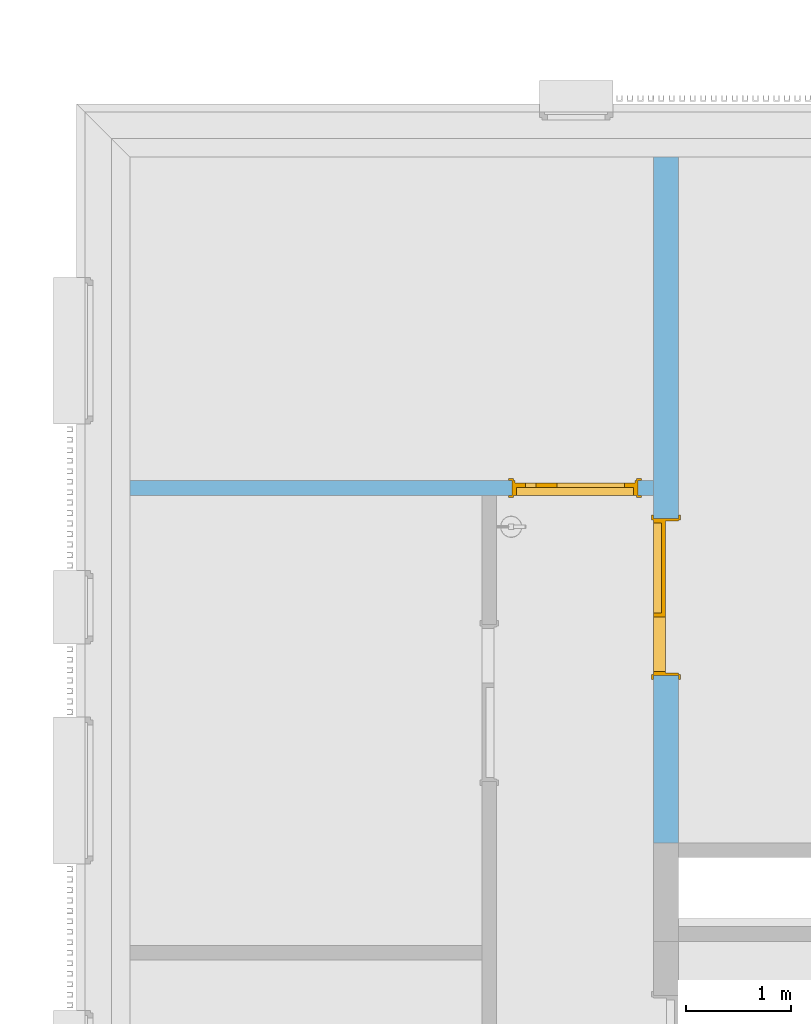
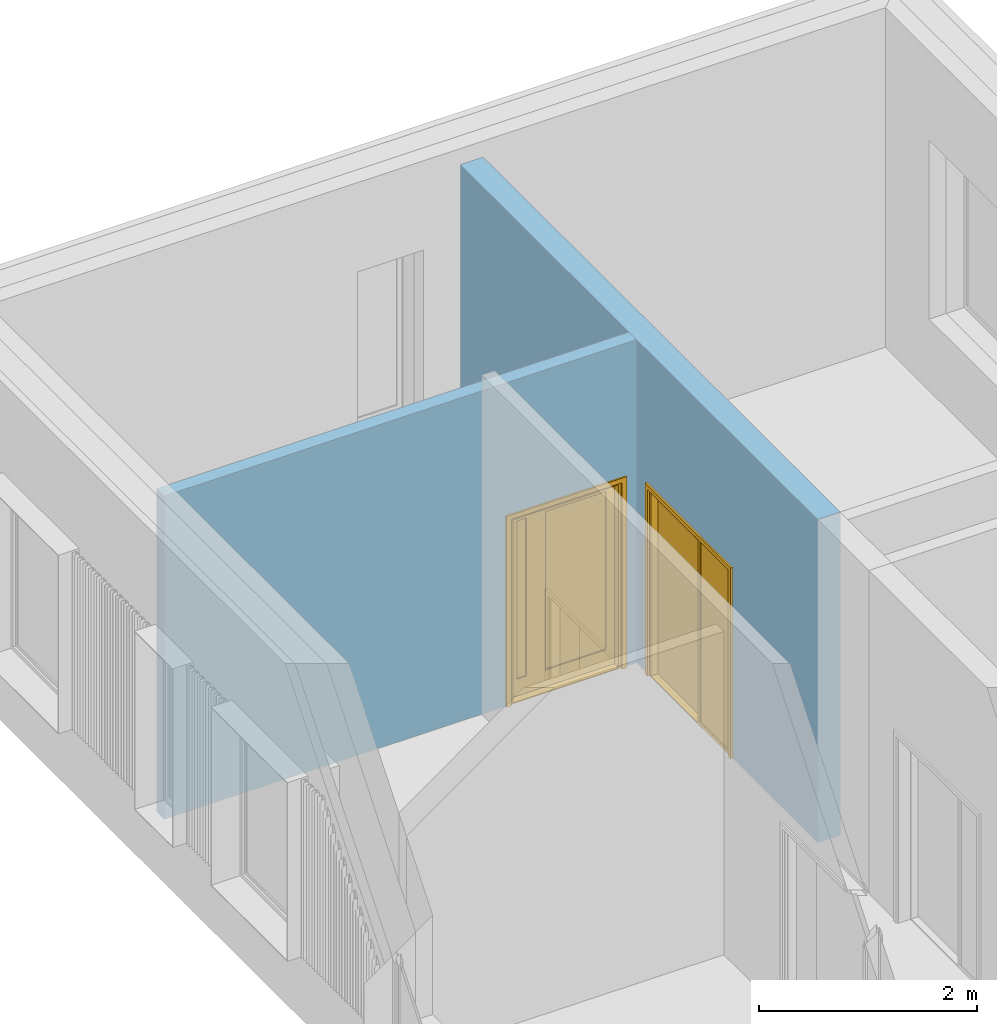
# One storey, part 58 of 100: 2 doors, 2 openings, plus 2 elements that do not belong to this part.
"""IFC2X3 building model written with IfcOpenShell, lengths in millimetres."""

from ifc_helpers import new_model, entity, si_unit, converted_unit, derived_unit, money_unit, direction, frame, origin_with_axes, origin_2d_with_axis, place, context, subcontext, project, spatial, polyline, rectangle, outline, extrude, open_shell, faceted_brep, surface_model, material, layer, layer_set, layer_usage, type_object, element, fill, save


model = new_model("IFC2X3")

# Units and contexts
model_context = context("Model", 3, precision=0.01, world=origin_with_axes(), true_north=direction((0.0, 1.0)))
body_context = subcontext(model_context, "Body", "Model", "MODEL_VIEW")
ifc_project = project(units=[si_unit("LENGTHUNIT", "METRE", prefix="MILLI"), si_unit("AREAUNIT", "SQUARE_METRE"), si_unit("VOLUMEUNIT", "CUBIC_METRE"), converted_unit("PLANEANGLEUNIT", "DEGREE", entity("IfcPlaneAngleMeasure", 0.0174532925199), si_unit("PLANEANGLEUNIT", "RADIAN"), dimensions=[0, 0, 0, 0, 0, 0, 0]), si_unit("SOLIDANGLEUNIT", "STERADIAN"), money_unit("EUR"), converted_unit("TIMEUNIT", "Year", entity("IfcTimeMeasure", 31556926.0), si_unit("TIMEUNIT", "SECOND"), dimensions=[0, 0, 1, 0, 0, 0, 0]), si_unit("MASSUNIT", "GRAM", prefix="KILO"), si_unit("THERMODYNAMICTEMPERATUREUNIT", "DEGREE_CELSIUS"), si_unit("LUMINOUSINTENSITYUNIT", "LUMEN"), si_unit("ENERGYUNIT", "JOULE", prefix="MEGA"), derived_unit("THERMALCONDUCTANCEUNIT", [(si_unit("POWERUNIT", "WATT"), 1), (si_unit("LENGTHUNIT", "METRE"), -1), (si_unit("THERMODYNAMICTEMPERATUREUNIT", "KELVIN"), -1)]), derived_unit("SPECIFICHEATCAPACITYUNIT", [(si_unit("ENERGYUNIT", "JOULE"), 1), (si_unit("MASSUNIT", "GRAM", prefix="KILO"), -1), (si_unit("THERMODYNAMICTEMPERATUREUNIT", "KELVIN"), -1)]), derived_unit("MASSDENSITYUNIT", [(si_unit("MASSUNIT", "GRAM", prefix="KILO"), 1), (si_unit("VOLUMEUNIT", "CUBIC_METRE"), -1)])], contexts=[model_context])

# Site, building, storey
site_placement = place(None, origin_with_axes())
site = spatial("IfcSite", under=ifc_project, at=site_placement, Name="Politse- ja Piirivalveameti ning Päästeameti ühishoone", CompositionType="ELEMENT")
building_placement = place(site_placement, origin_with_axes())
building = spatial("IfcBuilding", under=site, at=building_placement, Name="Politse- ja Piirivalveameti ning Päästeameti ühishoone", CompositionType="ELEMENT")
storey_placement = place(building_placement, frame((0.0, 0.0, 3800.0), z_axis=(0.0, 0.0, 1.0), x_axis=(1.0, 0.0, 0.0)))
storey = spatial("IfcBuildingStorey", under=building, at=storey_placement, Name="Teine korrus", CompositionType="ELEMENT", Elevation=3800.0)

# Wall, opening, door
ifc_material = material(Name="KON-05_Betoon Plokk - Konstuktsioon")
ifc_layer_1 = layer(ifc_material, 240.0, ventilated="UNKNOWN")
ifc_layer_set_1 = layer_set([ifc_layer_1], Name="SS-04_Sisesein 240")
ifc_layer_usage_1 = layer_usage(ifc_layer_set_1, "AXIS2", "POSITIVE", 0.0)
wall_type_1 = type_object("IfcWallType", Name="SS-04_Sisesein 240 240", PredefinedType="NOTDEFINED")
wall_1_placement = place(storey_placement, frame((65160.5595507, 37499.9521318, 0.0), z_axis=(0.0, 0.0, 1.0), x_axis=(0.0, -1.0, 0.0)))
wall_1 = element("IfcWallStandardCase", 1, at=wall_1_placement, inside=storey, type_object=wall_type_1, material=ifc_layer_usage_1, Name="SS-04", context=body_context, shape_type="SweptSolid", body=[
    extrude(outline(polyline([(0.0, 0.0), (6550.14299276, 0.0), (6550.14299276, 240.0), (0.0, 240.0), (0.0, 0.0)])), origin_with_axes(), (0.0, 0.0, 1.0), 3620.0),
])
opening_1_placement = place(wall_1_placement, frame((4203.02359896, 0.0, 0.0), z_axis=(0.0, 0.0, 1.0), x_axis=(1.0, 0.0, 0.0)))
opening_1 = element("IfcOpeningElement", 2, at=opening_1_placement, cuts=wall_1, Name="SU-02-5", context=body_context, shape_type="SweptSolid", body=[
    extrude(rectangle(XDim=1500.0, YDim=2100.0, at=origin_2d_with_axis()), frame((0.0, 240.0, 1050.0), z_axis=(0.0, 1.0, 0.0), x_axis=(-1.0, 0.0, 0.0)), (0.0, 0.0, -1.0), 720.0),
    extrude(rectangle(XDim=1574.0, YDim=2137.0, at=origin_2d_with_axis()), frame((0.0, 240.0, 1068.5), z_axis=(0.0, 1.0, 0.0), x_axis=(-1.0, 0.0, 0.0)), (0.0, 0.0, 1.0), 240.0),
    extrude(rectangle(XDim=1574.0, YDim=2137.0, at=origin_2d_with_axis()), frame((0.0, 0.0, 1068.5), z_axis=(0.0, -1.0, 0.0), x_axis=(-1.0, 0.0, 0.0)), (0.0, 0.0, 1.0), 240.0),
])
door_style_1 = type_object("IfcDoorStyle", Name="Door with Sidelight on Side 2 23", ConstructionType="NOTDEFINED", OperationType="NOTDEFINED", ParameterTakesPrecedence=False, Sizeable=False)
door_1_placement = place(opening_1_placement, frame((-750.0, 0.0, 0.0), z_axis=(0.0, 0.0, 1.0), x_axis=(1.0, 0.0, 0.0)))
door_1 = element("IfcDoor", 3, at=door_1_placement, inside=storey, type_object=door_style_1, Name="SU-02-5", ObjectType="DOOR", OverallHeight=2100.0, OverallWidth=1500.0, context=body_context, shape_type="SurfaceModel", body=[
    faceted_brep([(40.0, 0.0, 0.0), (40.0, 0.0, 12.0), (40.0, 75.0, 12.0), (40.0, 75.0, 0.0), (900.0, 0.0, 0.0), (900.0, 0.0, 12.0), (900.0, 75.0, 12.0), (912.0, 75.0, 12.0), (28.0, 75.0, 12.0), (28.0, 75.0, 0.0), (912.0, 75.0, 0.0), (900.0, 75.0, 0.0)], [[[0, 1, 2, 3]], [[4, 5, 1, 0]], [[1, 5, 6, 7, 8, 2]], [[3, 2, 8, 9]], [[0, 3, 9, 10, 11, 4]], [[11, 6, 5, 4]], [[10, 7, 6, 11]], [[9, 8, 7, 10]]]),
    faceted_brep([(1500.0, 115.0, 0.0), (1475.0, 115.0, 0.0), (1475.0, 240.0, 0.0), (1500.0, 240.0, 0.0), (1500.0, 115.0, 2100.0), (1475.0, 115.0, 2075.0), (1475.0, 240.0, 2075.0), (1500.0, 240.0, 2100.0)], [[[0, 1, 2, 3]], [[0, 4, 5, 1]], [[1, 5, 6, 2]], [[3, 2, 6, 7]], [[4, 0, 3, 7]], [[5, 4, 7, 6]]]),
    faceted_brep([(0.0, 115.0, 2100.0), (25.0, 115.0, 2075.0), (25.0, 240.0, 2075.0), (0.0, 240.0, 2100.0), (0.0, 115.0, 0.0), (25.0, 115.0, 0.0), (25.0, 240.0, 0.0), (0.0, 240.0, 0.0)], [[[0, 1, 2, 3]], [[0, 4, 5, 1]], [[1, 5, 6, 2]], [[3, 2, 6, 7]], [[4, 0, 3, 7]], [[5, 4, 7, 6]]]),
    faceted_brep([(1475.0, 115.0, 2075.0), (25.0, 115.0, 2075.0), (25.0, 240.0, 2075.0), (1475.0, 240.0, 2075.0), (1500.0, 115.0, 2100.0), (0.0, 115.0, 2100.0), (0.0, 240.0, 2100.0), (1500.0, 240.0, 2100.0)], [[[0, 1, 2, 3]], [[0, 4, 5, 1]], [[1, 5, 6, 2]], [[3, 2, 6, 7]], [[4, 0, 3, 7]], [[5, 4, 7, 6]]]),
    faceted_brep([(1537.0, 259.0, 0.0), (1537.0, 240.0, 0.0), (1487.0, 240.0, 0.0), (1487.0, 259.0, 0.0), (1537.0, 259.0, 2137.0), (1537.0, 240.0, 2137.0), (1487.0, 240.0, 2087.0), (1487.0, 259.0, 2087.0)], [[[0, 1, 2, 3]], [[4, 5, 1, 0]], [[1, 5, 6, 2]], [[3, 2, 6, 7]], [[0, 3, 7, 4]], [[7, 6, 5, 4]]]),
    faceted_brep([(-37.0, 259.0, 2137.0), (-37.0, 240.0, 2137.0), (13.0, 240.0, 2087.0), (13.0, 259.0, 2087.0), (-37.0, 259.0, 0.0), (-37.0, 240.0, 0.0), (13.0, 240.0, 0.0), (13.0, 259.0, 0.0)], [[[0, 1, 2, 3]], [[4, 5, 1, 0]], [[1, 5, 6, 2]], [[3, 2, 6, 7]], [[0, 3, 7, 4]], [[7, 6, 5, 4]]]),
    faceted_brep([(1537.0, 259.0, 2137.0), (1537.0, 240.0, 2137.0), (1487.0, 240.0, 2087.0), (1487.0, 259.0, 2087.0), (-37.0, 259.0, 2137.0), (-37.0, 240.0, 2137.0), (13.0, 240.0, 2087.0), (13.0, 259.0, 2087.0)], [[[0, 1, 2, 3]], [[4, 5, 1, 0]], [[1, 5, 6, 2]], [[3, 2, 6, 7]], [[0, 3, 7, 4]], [[7, 6, 5, 4]]]),
    faceted_brep([(1537.0, -19.0, 0.0), (1487.0, -19.0, 0.0), (1487.0, 0.0, 0.0), (1537.0, 0.0, 0.0), (1537.0, -19.0, 2137.0), (1487.0, -19.0, 2087.0), (1487.0, 0.0, 2087.0), (1537.0, 0.0, 2137.0)], [[[0, 1, 2, 3]], [[0, 4, 5, 1]], [[1, 5, 6, 2]], [[3, 2, 6, 7]], [[4, 0, 3, 7]], [[5, 4, 7, 6]]]),
    faceted_brep([(-37.0, -19.0, 2137.0), (13.0, -19.0, 2087.0), (13.0, 0.0, 2087.0), (-37.0, 0.0, 2137.0), (-37.0, -19.0, 0.0), (13.0, -19.0, 0.0), (13.0, 0.0, 0.0), (-37.0, 0.0, 0.0)], [[[0, 1, 2, 3]], [[0, 4, 5, 1]], [[1, 5, 6, 2]], [[3, 2, 6, 7]], [[4, 0, 3, 7]], [[5, 4, 7, 6]]]),
    faceted_brep([(1537.0, -19.0, 2137.0), (1487.0, -19.0, 2087.0), (1487.0, 0.0, 2087.0), (1537.0, 0.0, 2137.0), (-37.0, -19.0, 2137.0), (13.0, -19.0, 2087.0), (13.0, 0.0, 2087.0), (-37.0, 0.0, 2137.0)], [[[0, 1, 2, 3]], [[0, 4, 5, 1]], [[1, 5, 6, 2]], [[3, 2, 6, 7]], [[4, 0, 3, 7]], [[5, 4, 7, 6]]]),
    faceted_brep([(1500.0, 115.0, 0.0), (1500.0, 0.0, 0.0), (1460.0, 0.0, 0.0), (1460.0, 115.0, 0.0), (1500.0, 115.0, 2060.0), (1500.0, 0.0, 2060.0), (1460.0, 0.0, 2060.0), (1460.0, 0.0, 40.0), (1460.0, 115.0, 40.0), (1460.0, 115.0, 2060.0)], [[[0, 1, 2, 3]], [[4, 5, 1, 0]], [[1, 5, 6, 7, 2]], [[3, 2, 7, 8]], [[0, 3, 8, 9, 4]], [[9, 6, 5, 4]], [[8, 7, 6, 9]]]),
    faceted_brep([(900.0, 75.0, 0.0), (900.0, 0.0, 0.0), (900.0, 0.0, 2060.0), (900.0, 75.0, 2060.0), (912.0, 75.0, 0.0), (912.0, 115.0, 0.0), (940.0, 115.0, 0.0), (940.0, 0.0, 0.0), (940.0, 0.0, 40.0), (940.0, 0.0, 2060.0), (912.0, 75.0, 2060.0), (940.0, 115.0, 2060.0), (912.0, 115.0, 2060.0), (940.0, 115.0, 40.0)], [[[0, 1, 2, 3]], [[4, 5, 6, 7, 1, 0]], [[7, 8, 9, 2, 1]], [[10, 3, 2, 9, 11, 12]], [[10, 4, 0, 3]], [[12, 5, 4, 10]], [[12, 11, 13, 6, 5]], [[6, 13, 8, 7]], [[13, 11, 9, 8]]]),
    faceted_brep([(1460.0, 115.0, 40.0), (1460.0, 0.0, 40.0), (1460.0, 0.0, 0.0), (1460.0, 115.0, 0.0), (940.0, 115.0, 40.0), (940.0, 0.0, 40.0), (940.0, 0.0, 0.0), (940.0, 115.0, 0.0)], [[[0, 1, 2, 3]], [[4, 5, 1, 0]], [[1, 5, 6, 2]], [[3, 2, 6, 7]], [[0, 3, 7, 4]], [[7, 6, 5, 4]]]),
    faceted_brep([(28.0, 75.0, 2060.0), (28.0, 115.0, 2060.0), (0.0, 115.0, 2060.0), (0.0, 0.0, 2060.0), (40.0, 0.0, 2060.0), (40.0, 75.0, 2060.0), (28.0, 75.0, 0.0), (28.0, 115.0, 0.0), (0.0, 115.0, 0.0), (0.0, 0.0, 0.0), (40.0, 0.0, 0.0), (40.0, 75.0, 0.0)], [[[0, 1, 2, 3, 4, 5]], [[0, 6, 7, 1]], [[7, 8, 2, 1]], [[2, 8, 9, 3]], [[3, 9, 10, 4]], [[5, 4, 10, 11]], [[5, 11, 6, 0]], [[6, 11, 10, 9, 8, 7]]]),
    faceted_brep([(912.0, 115.0, 2072.0), (28.0, 115.0, 2072.0), (28.0, 115.0, 2060.0), (0.0, 115.0, 2060.0), (0.0, 115.0, 2100.0), (1500.0, 115.0, 2100.0), (1500.0, 115.0, 2060.0), (1460.0, 115.0, 2060.0), (940.0, 115.0, 2060.0), (912.0, 115.0, 2060.0), (912.0, 75.0, 2072.0), (28.0, 75.0, 2072.0), (28.0, 75.0, 2060.0), (40.0, 75.0, 2060.0), (40.0, 0.0, 2060.0), (0.0, 0.0, 2060.0), (0.0, 0.0, 2100.0), (1500.0, 0.0, 2100.0), (1500.0, 0.0, 2060.0), (1460.0, 0.0, 2060.0), (940.0, 0.0, 2060.0), (912.0, 75.0, 2060.0), (900.0, 0.0, 2060.0)], [[[0, 1, 2, 3, 4, 5, 6, 7, 8, 9]], [[0, 10, 11, 1]], [[1, 11, 12, 2]], [[12, 13, 14, 15, 3, 2]], [[4, 3, 15, 16]], [[5, 4, 16, 17]], [[6, 5, 17, 18]], [[7, 6, 18, 19]], [[8, 7, 19, 20]], [[21, 9, 8, 20, 22, 14, 13]], [[9, 21, 10, 0]], [[12, 11, 10, 21, 13]], [[14, 22, 20, 19, 18, 17, 16, 15]]]),
    faceted_brep([(28.0, 115.0, 0.0), (912.0, 115.0, 0.0), (912.0, 75.0, 0.0), (28.0, 75.0, 0.0), (28.0, 115.0, 2072.0), (912.0, 115.0, 2072.0), (912.0, 75.0, 2072.0), (28.0, 75.0, 2072.0)], [[[0, 1, 2, 3]], [[0, 4, 5, 1]], [[1, 5, 6, 2]], [[3, 2, 6, 7]], [[4, 0, 3, 7]], [[5, 4, 7, 6]]]),
    surface_model("IfcShellBasedSurfaceModel", [(1460.0, 24.0, 40.0), (940.0, 24.0, 40.0), (940.0, 24.0, 2060.0), (1460.0, 24.0, 2060.0)], [open_shell([[[0, 1, 2, 3]]])]),
    surface_model("IfcShellBasedSurfaceModel", [(1460.0, 12.0, 40.0), (1460.0, 12.0, 2060.0), (940.0, 12.0, 2060.0), (940.0, 12.0, 40.0)], [open_shell([[[0, 1, 2, 3]]])]),
])
fill(opening_1, door_1)

ifc_layer_2 = layer(ifc_material, 140.0, ventilated="UNKNOWN")
ifc_layer_set_2 = layer_set([ifc_layer_2], Name="SS-02_Sisesein 140")
ifc_layer_usage_2 = layer_usage(ifc_layer_set_2, "AXIS2", "NEGATIVE", 0.0)
wall_type_2 = type_object("IfcWallType", Name="SS-02_Sisesein 140 140", PredefinedType="NOTDEFINED")
wall_2_placement = place(storey_placement, frame((60160.5519118, 34409.9754727, 0.0), z_axis=(0.0, 0.0, 1.0), x_axis=(1.0, 0.0, 0.0)))
wall_2 = element("IfcWallStandardCase", 4, at=wall_2_placement, inside=storey, type_object=wall_type_2, material=ifc_layer_usage_2, Name="SS-02", context=body_context, shape_type="SweptSolid", body=[
    extrude(outline(polyline([(0.0, -140.0), (5000.00763889, -140.0), (5000.00763889, 0.0), (0.0, 0.0), (0.0, -140.0)])), origin_with_axes(), (0.0, 0.0, 1.0), 3620.0),
])
opening_2_placement = place(wall_2_placement, frame((4249.74755766, 0.0, 0.0), z_axis=(0.0, 0.0, 1.0), x_axis=(1.0, 0.0, 0.0)))
opening_2 = element("IfcOpeningElement", 5, at=opening_2_placement, cuts=wall_2, Name="SU-02-6", context=body_context, shape_type="SweptSolid", body=[
    extrude(rectangle(XDim=1200.0, YDim=2100.0, at=origin_2d_with_axis()), frame((0.0, 140.0, 1050.0), z_axis=(0.0, 1.0, 0.0), x_axis=(-1.0, 0.0, 0.0)), (0.0, 0.0, -1.0), 420.0),
    extrude(rectangle(XDim=1274.0, YDim=2137.0, at=origin_2d_with_axis()), frame((0.0, 0.0, 1068.5), z_axis=(0.0, 1.0, 0.0), x_axis=(-1.0, 0.0, 0.0)), (0.0, 0.0, 1.0), 140.0),
    extrude(rectangle(XDim=1274.0, YDim=2137.0, at=origin_2d_with_axis()), frame((0.0, -140.0, 1068.5), z_axis=(0.0, -1.0, 0.0), x_axis=(-1.0, 0.0, 0.0)), (0.0, 0.0, 1.0), 140.0),
])
door_style_2 = type_object("IfcDoorStyle", Name="Double Door Asymmetric 23", ConstructionType="NOTDEFINED", OperationType="DOUBLE_DOOR_SINGLE_SWING", ParameterTakesPrecedence=False, Sizeable=False)
door_2_placement = place(opening_2_placement, frame((-600.0, 0.0, 0.0), z_axis=(0.0, 0.0, 1.0), x_axis=(1.0, 0.0, 0.0)))
door_2 = element("IfcDoor", 6, at=door_2_placement, inside=storey, type_object=door_style_2, Name="SU-02-6", ObjectType="DOOR", OverallHeight=2100.0, OverallWidth=1200.0, context=body_context, shape_type="SurfaceModel", body=[
    faceted_brep([(40.0, -140.0, 0.0), (40.0, -140.0, 12.0), (40.0, -65.0, 12.0), (40.0, -65.0, 0.0), (1160.0, -140.0, 0.0), (1160.0, -140.0, 12.0), (1160.0, -65.0, 12.0), (1172.0, -65.0, 12.0), (28.0, -65.0, 12.0), (28.0, -65.0, 0.0), (1172.0, -65.0, 0.0), (1160.0, -65.0, 0.0)], [[[0, 1, 2, 3]], [[4, 5, 1, 0]], [[1, 5, 6, 7, 8, 2]], [[3, 2, 8, 9]], [[0, 3, 9, 10, 11, 4]], [[11, 6, 5, 4]], [[10, 7, 6, 11]], [[9, 8, 7, 10]]]),
    faceted_brep([(1200.0, -25.0, 0.0), (1175.0, -25.0, 0.0), (1175.0, 0.0, 0.0), (1200.0, 0.0, 0.0), (1200.0, -25.0, 2100.0), (1175.0, -25.0, 2075.0), (1175.0, 0.0, 2075.0), (1200.0, 0.0, 2100.0)], [[[0, 1, 2, 3]], [[0, 4, 5, 1]], [[1, 5, 6, 2]], [[3, 2, 6, 7]], [[4, 0, 3, 7]], [[5, 4, 7, 6]]]),
    faceted_brep([(0.0, -25.0, 2100.0), (25.0, -25.0, 2075.0), (25.0, 0.0, 2075.0), (0.0, 0.0, 2100.0), (0.0, -25.0, 0.0), (25.0, -25.0, 0.0), (25.0, 0.0, 0.0), (0.0, 0.0, 0.0)], [[[0, 1, 2, 3]], [[0, 4, 5, 1]], [[1, 5, 6, 2]], [[3, 2, 6, 7]], [[4, 0, 3, 7]], [[5, 4, 7, 6]]]),
    faceted_brep([(1175.0, -25.0, 2075.0), (25.0, -25.0, 2075.0), (25.0, 0.0, 2075.0), (1175.0, 0.0, 2075.0), (1200.0, -25.0, 2100.0), (0.0, -25.0, 2100.0), (0.0, 0.0, 2100.0), (1200.0, 0.0, 2100.0)], [[[0, 1, 2, 3]], [[0, 4, 5, 1]], [[1, 5, 6, 2]], [[3, 2, 6, 7]], [[4, 0, 3, 7]], [[5, 4, 7, 6]]]),
    faceted_brep([(1237.0, 19.0, 0.0), (1237.0, 0.0, 0.0), (1187.0, 0.0, 0.0), (1187.0, 19.0, 0.0), (1237.0, 19.0, 2137.0), (1237.0, 0.0, 2137.0), (1187.0, 0.0, 2087.0), (1187.0, 19.0, 2087.0)], [[[0, 1, 2, 3]], [[4, 5, 1, 0]], [[1, 5, 6, 2]], [[3, 2, 6, 7]], [[0, 3, 7, 4]], [[7, 6, 5, 4]]]),
    faceted_brep([(-37.0, 19.0, 2137.0), (-37.0, 0.0, 2137.0), (13.0, 0.0, 2087.0), (13.0, 19.0, 2087.0), (-37.0, 19.0, 0.0), (-37.0, 0.0, 0.0), (13.0, 0.0, 0.0), (13.0, 19.0, 0.0)], [[[0, 1, 2, 3]], [[4, 5, 1, 0]], [[1, 5, 6, 2]], [[3, 2, 6, 7]], [[0, 3, 7, 4]], [[7, 6, 5, 4]]]),
    faceted_brep([(1237.0, 19.0, 2137.0), (1237.0, 0.0, 2137.0), (1187.0, 0.0, 2087.0), (1187.0, 19.0, 2087.0), (-37.0, 19.0, 2137.0), (-37.0, 0.0, 2137.0), (13.0, 0.0, 2087.0), (13.0, 19.0, 2087.0)], [[[0, 1, 2, 3]], [[4, 5, 1, 0]], [[1, 5, 6, 2]], [[3, 2, 6, 7]], [[0, 3, 7, 4]], [[7, 6, 5, 4]]]),
    faceted_brep([(1237.0, -159.0, 0.0), (1187.0, -159.0, 0.0), (1187.0, -140.0, 0.0), (1237.0, -140.0, 0.0), (1237.0, -159.0, 2137.0), (1187.0, -159.0, 2087.0), (1187.0, -140.0, 2087.0), (1237.0, -140.0, 2137.0)], [[[0, 1, 2, 3]], [[0, 4, 5, 1]], [[1, 5, 6, 2]], [[3, 2, 6, 7]], [[4, 0, 3, 7]], [[5, 4, 7, 6]]]),
    faceted_brep([(-37.0, -159.0, 2137.0), (13.0, -159.0, 2087.0), (13.0, -140.0, 2087.0), (-37.0, -140.0, 2137.0), (-37.0, -159.0, 0.0), (13.0, -159.0, 0.0), (13.0, -140.0, 0.0), (-37.0, -140.0, 0.0)], [[[0, 1, 2, 3]], [[0, 4, 5, 1]], [[1, 5, 6, 2]], [[3, 2, 6, 7]], [[4, 0, 3, 7]], [[5, 4, 7, 6]]]),
    faceted_brep([(1237.0, -159.0, 2137.0), (1187.0, -159.0, 2087.0), (1187.0, -140.0, 2087.0), (1237.0, -140.0, 2137.0), (-37.0, -159.0, 2137.0), (13.0, -159.0, 2087.0), (13.0, -140.0, 2087.0), (-37.0, -140.0, 2137.0)], [[[0, 1, 2, 3]], [[0, 4, 5, 1]], [[1, 5, 6, 2]], [[3, 2, 6, 7]], [[4, 0, 3, 7]], [[5, 4, 7, 6]]]),
    faceted_brep([(1160.0, -65.0, 0.0), (1160.0, -140.0, 0.0), (1160.0, -140.0, 2060.0), (1160.0, -65.0, 2060.0), (1172.0, -65.0, 0.0), (1172.0, -25.0, 0.0), (1200.0, -25.0, 0.0), (1200.0, -140.0, 0.0), (1200.0, -140.0, 2060.0), (1172.0, -65.0, 2060.0), (1200.0, -25.0, 2060.0), (1172.0, -25.0, 2060.0)], [[[0, 1, 2, 3]], [[4, 5, 6, 7, 1, 0]], [[1, 7, 8, 2]], [[9, 3, 2, 8, 10, 11]], [[9, 4, 0, 3]], [[11, 5, 4, 9]], [[11, 10, 6, 5]], [[6, 10, 8, 7]]]),
    faceted_brep([(28.0, -65.0, 2060.0), (28.0, -25.0, 2060.0), (0.0, -25.0, 2060.0), (0.0, -140.0, 2060.0), (40.0, -140.0, 2060.0), (40.0, -65.0, 2060.0), (28.0, -65.0, 0.0), (28.0, -25.0, 0.0), (0.0, -25.0, 0.0), (0.0, -140.0, 0.0), (40.0, -140.0, 0.0), (40.0, -65.0, 0.0)], [[[0, 1, 2, 3, 4, 5]], [[0, 6, 7, 1]], [[7, 8, 2, 1]], [[2, 8, 9, 3]], [[3, 9, 10, 4]], [[5, 4, 10, 11]], [[5, 11, 6, 0]], [[6, 11, 10, 9, 8, 7]]]),
    faceted_brep([(1172.0, -25.0, 2072.0), (28.0, -25.0, 2072.0), (28.0, -25.0, 2060.0), (0.0, -25.0, 2060.0), (0.0, -25.0, 2100.0), (1200.0, -25.0, 2100.0), (1200.0, -25.0, 2060.0), (1172.0, -25.0, 2060.0), (1172.0, -65.0, 2072.0), (28.0, -65.0, 2072.0), (28.0, -65.0, 2060.0), (40.0, -65.0, 2060.0), (40.0, -140.0, 2060.0), (0.0, -140.0, 2060.0), (0.0, -140.0, 2100.0), (1200.0, -140.0, 2100.0), (1200.0, -140.0, 2060.0), (1172.0, -65.0, 2060.0), (1160.0, -140.0, 2060.0), (1160.0, -65.0, 2060.0)], [[[0, 1, 2, 3, 4, 5, 6, 7]], [[0, 8, 9, 1]], [[1, 9, 10, 2]], [[10, 11, 12, 13, 3, 2]], [[4, 3, 13, 14]], [[5, 4, 14, 15]], [[6, 5, 15, 16]], [[17, 7, 6, 16, 18, 19]], [[7, 17, 8, 0]], [[10, 9, 8, 17, 19, 11]], [[19, 18, 12, 11]], [[12, 18, 16, 15, 14, 13]]]),
    faceted_brep([(28.0, -25.0, 200.0), (128.0, -25.0, 200.0), (128.0, -65.0, 200.0), (28.0, -65.0, 200.0), (28.0, -25.0, 1972.0), (128.0, -25.0, 1972.0), (128.0, -65.0, 1972.0), (28.0, -65.0, 1972.0)], [[[0, 1, 2, 3]], [[0, 4, 5, 1]], [[1, 5, 6, 2]], [[3, 2, 6, 7]], [[4, 0, 3, 7]], [[5, 4, 7, 6]]]),
    faceted_brep([(328.0, -25.0, 200.0), (328.0, -25.0, 1972.0), (328.0, -65.0, 1972.0), (328.0, -65.0, 200.0), (228.0, -25.0, 200.0), (228.0, -25.0, 1972.0), (228.0, -65.0, 1972.0), (228.0, -65.0, 200.0)], [[[0, 1, 2, 3]], [[0, 4, 5, 1]], [[1, 5, 6, 2]], [[3, 2, 6, 7]], [[4, 0, 3, 7]], [[5, 4, 7, 6]]]),
    faceted_brep([(28.0, -25.0, 0.0), (328.0, -25.0, 0.0), (328.0, -65.0, 0.0), (28.0, -65.0, 0.0), (28.0, -25.0, 200.0), (128.0, -25.0, 200.0), (228.0, -25.0, 200.0), (328.0, -25.0, 200.0), (328.0, -65.0, 200.0), (228.0, -65.0, 200.0), (128.0, -65.0, 200.0), (28.0, -65.0, 200.0)], [[[0, 1, 2, 3]], [[0, 4, 5, 6, 7, 1]], [[1, 7, 8, 2]], [[3, 2, 8, 9, 10, 11]], [[4, 0, 3, 11]], [[5, 4, 11, 10]], [[6, 5, 10, 9]], [[7, 6, 9, 8]]]),
    faceted_brep([(28.0, -25.0, 2072.0), (28.0, -25.0, 1972.0), (28.0, -65.0, 1972.0), (28.0, -65.0, 2072.0), (328.0, -25.0, 2072.0), (328.0, -25.0, 1972.0), (228.0, -25.0, 1972.0), (128.0, -25.0, 1972.0), (128.0, -65.0, 1972.0), (228.0, -65.0, 1972.0), (328.0, -65.0, 1972.0), (328.0, -65.0, 2072.0)], [[[0, 1, 2, 3]], [[0, 4, 5, 6, 7, 1]], [[1, 7, 8, 2]], [[3, 2, 8, 9, 10, 11]], [[4, 0, 3, 11]], [[5, 4, 11, 10]], [[6, 5, 10, 9]], [[7, 6, 9, 8]]]),
    surface_model("IfcShellBasedSurfaceModel", [(128.0, -39.0, 200.0), (128.0, -39.0, 1972.0), (228.0, -39.0, 1972.0), (228.0, -39.0, 200.0)], [open_shell([[[0, 1, 2, 3]]])]),
    surface_model("IfcShellBasedSurfaceModel", [(128.0, -51.0, 200.0), (228.0, -51.0, 200.0), (228.0, -51.0, 1972.0), (128.0, -51.0, 1972.0)], [open_shell([[[0, 1, 2, 3]]])]),
    faceted_brep([(1172.0, -25.0, 200.0), (1172.0, -65.0, 200.0), (1072.0, -65.0, 200.0), (1072.0, -25.0, 200.0), (1172.0, -25.0, 1972.0), (1172.0, -65.0, 1972.0), (1072.0, -65.0, 1972.0), (1072.0, -25.0, 1972.0)], [[[0, 1, 2, 3]], [[4, 5, 1, 0]], [[1, 5, 6, 2]], [[3, 2, 6, 7]], [[0, 3, 7, 4]], [[7, 6, 5, 4]]]),
    faceted_brep([(328.0, -25.0, 200.0), (328.0, -65.0, 200.0), (328.0, -65.0, 1972.0), (328.0, -25.0, 1972.0), (428.0, -25.0, 200.0), (428.0, -65.0, 200.0), (428.0, -65.0, 1972.0), (428.0, -25.0, 1972.0)], [[[0, 1, 2, 3]], [[4, 5, 1, 0]], [[1, 5, 6, 2]], [[3, 2, 6, 7]], [[0, 3, 7, 4]], [[7, 6, 5, 4]]]),
    faceted_brep([(1172.0, -25.0, 0.0), (1172.0, -65.0, 0.0), (328.0, -65.0, 0.0), (328.0, -25.0, 0.0), (1172.0, -25.0, 200.0), (1172.0, -65.0, 200.0), (1072.0, -65.0, 200.0), (428.0, -65.0, 200.0), (328.0, -65.0, 200.0), (328.0, -25.0, 200.0), (428.0, -25.0, 200.0), (1072.0, -25.0, 200.0)], [[[0, 1, 2, 3]], [[4, 5, 1, 0]], [[1, 5, 6, 7, 8, 2]], [[3, 2, 8, 9]], [[0, 3, 9, 10, 11, 4]], [[11, 6, 5, 4]], [[10, 7, 6, 11]], [[9, 8, 7, 10]]]),
    faceted_brep([(1172.0, -25.0, 2072.0), (1172.0, -65.0, 2072.0), (1172.0, -65.0, 1972.0), (1172.0, -25.0, 1972.0), (328.0, -25.0, 2072.0), (328.0, -65.0, 2072.0), (328.0, -65.0, 1972.0), (428.0, -65.0, 1972.0), (1072.0, -65.0, 1972.0), (1072.0, -25.0, 1972.0), (428.0, -25.0, 1972.0), (328.0, -25.0, 1972.0)], [[[0, 1, 2, 3]], [[4, 5, 1, 0]], [[1, 5, 6, 7, 8, 2]], [[3, 2, 8, 9]], [[0, 3, 9, 10, 11, 4]], [[11, 6, 5, 4]], [[10, 7, 6, 11]], [[9, 8, 7, 10]]]),
    surface_model("IfcShellBasedSurfaceModel", [(1072.0, -39.0, 200.0), (428.0, -39.0, 200.0), (428.0, -39.0, 1972.0), (1072.0, -39.0, 1972.0)], [open_shell([[[0, 1, 2, 3]]])]),
    surface_model("IfcShellBasedSurfaceModel", [(1072.0, -51.0, 200.0), (1072.0, -51.0, 1972.0), (428.0, -51.0, 1972.0), (428.0, -51.0, 200.0)], [open_shell([[[0, 1, 2, 3]]])]),
])
fill(opening_2, door_2)

save(model, "model.ifc")
